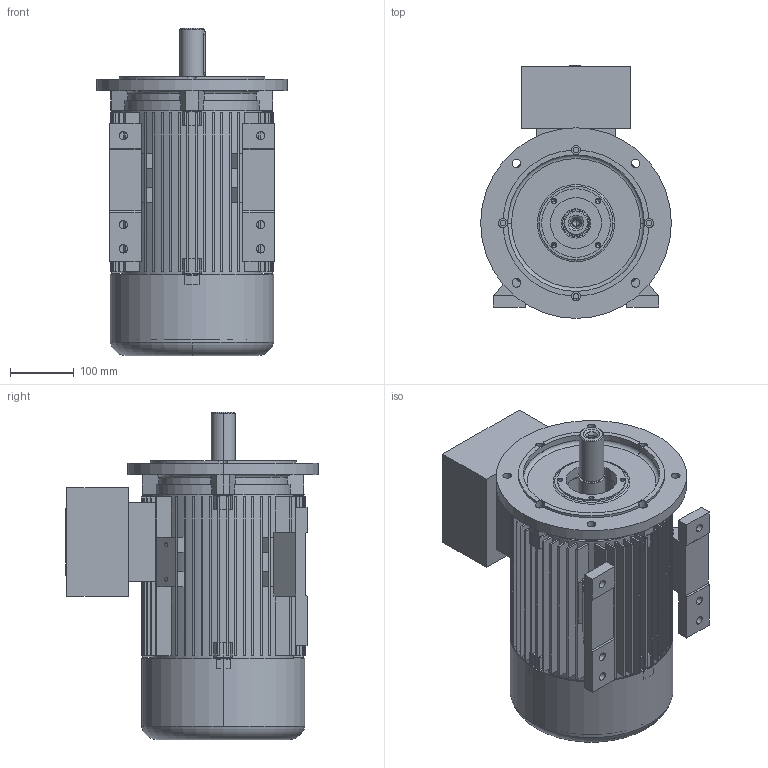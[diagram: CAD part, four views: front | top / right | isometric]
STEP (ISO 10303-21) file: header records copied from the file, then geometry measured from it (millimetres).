
FILE_DESCRIPTION (( 'STEP AP214' ), '1' );
FILE_NAME ('20.17470-E 7AT 132S&M B35 Exd STANDK.STEP', '2018-07-18T06:50:41', ( '' ), ( '' ), 'SwSTEP 2.0', 'SolidWorks 2018', '' );
FILE_SCHEMA (( 'AUTOMOTIVE_DESIGN' ));
Length unit declared in the file: millimetre
Products named in the file (1): 20.17470-E 7AT 132S&M B35 Exd STANDK
Bounding box: 300 x 398 x 515 mm (x, y, z)
Volume: 12356878.4 mm3; surface area: 2577098.5 mm2
Topology: 10 solids, 10 shells, 1220 faces, 3319 edges, 2175 vertices
Faces by surface type: plane 815, cylinder 320, cone 56, torus 20, bspline 9
Entity records: 39753 total; most frequent: CARTESIAN_POINT 7034, DIRECTION 6761, ORIENTED_EDGE 6570, EDGE_CURVE 3285, AXIS2_PLACEMENT_3D 2302, VERTEX_POINT 2175, VECTOR 2157, LINE 2157
